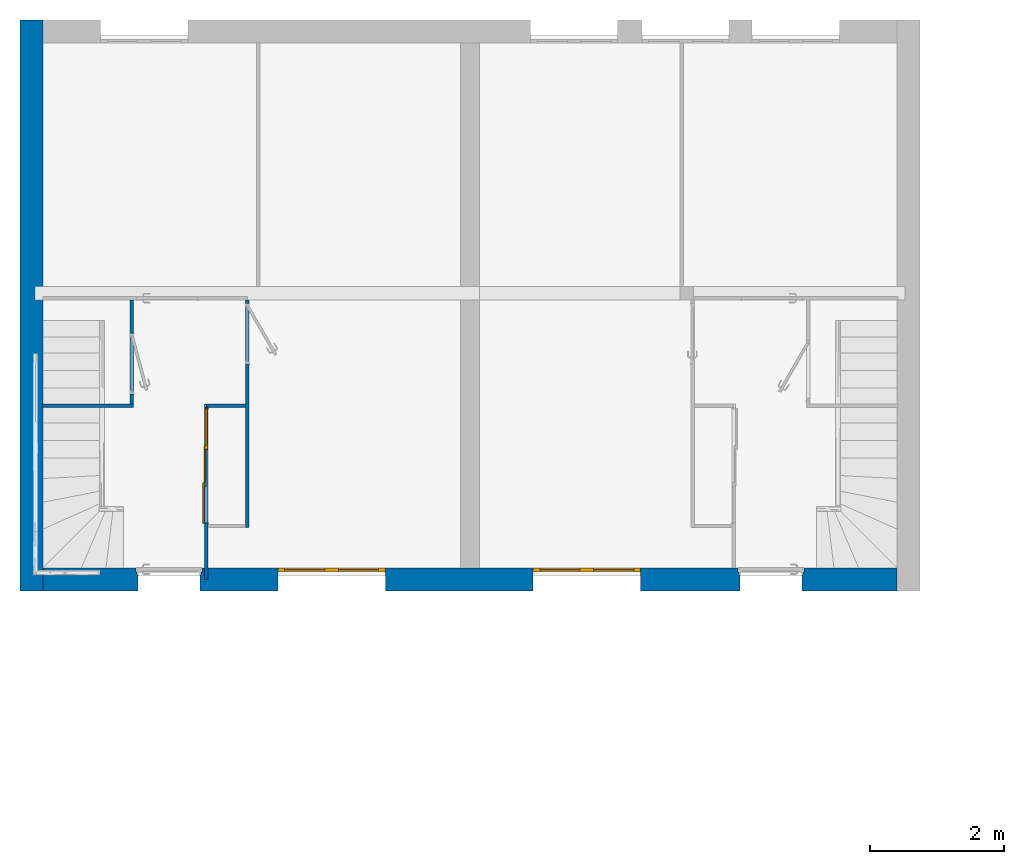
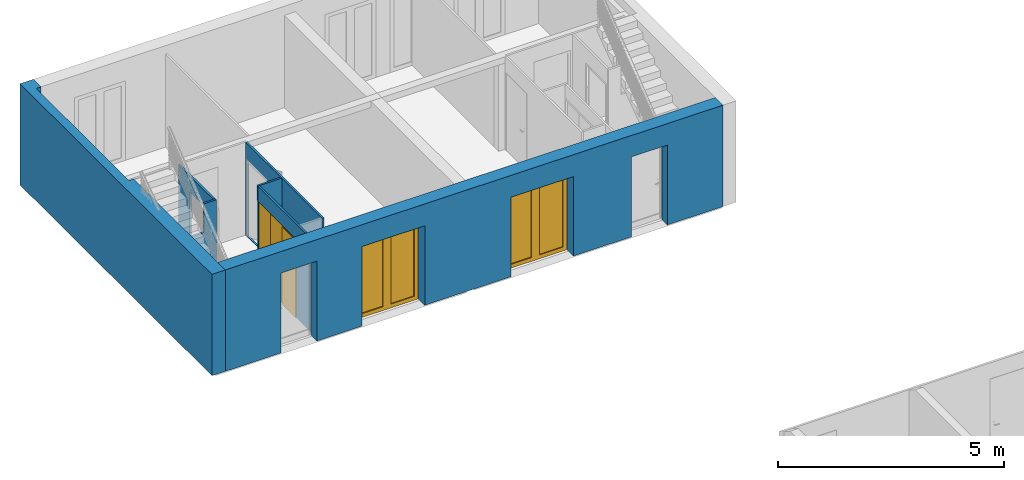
# One storey, part 2 of 12: 7 walls, 3 doors, 11 openings.
"""IFC2X3 building model written with IfcOpenShell, lengths in metres."""

from ifc_helpers import new_model, entity, si_unit, converted_unit, derived_unit, direction, frame, frame_2d, origin, origin_2d_with_axis, place, context, subcontext, project, spatial, polyline, circle_curve, parameter, trimmed, segment, composite_curve, rectangle, outline, extrude, faceted_brep, source, transform, mapped, material, material_list, layer, layer_set, layer_usage, type_object, type_shapes, element, fill, save


model = new_model("IFC2X3")

# Units and contexts
model_context = context("Model", 3, precision=1e-05, world=origin(), true_north=direction((6.12303176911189e-17, 1.0)))
context_of_model = context(None, 3, precision=1e-05, world=origin(), true_north=direction((6.12303176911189e-17, 1.0)))
body_context = subcontext(model_context, "Body", "Model", "MODEL_VIEW")
ifc_project = project(units=[si_unit("LENGTHUNIT", "METRE"), si_unit("AREAUNIT", "SQUARE_METRE"), si_unit("VOLUMEUNIT", "CUBIC_METRE"), converted_unit("PLANEANGLEUNIT", "DEGREE", entity("IfcRatioMeasure", 0.0174532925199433), si_unit("PLANEANGLEUNIT", "RADIAN"), dimensions=[0, 0, 0, 0, 0, 0, 0]), si_unit("MASSUNIT", "GRAM", prefix="KILO"), si_unit("TIMEUNIT", "SECOND"), si_unit("FREQUENCYUNIT", "HERTZ"), si_unit("THERMODYNAMICTEMPERATUREUNIT", "DEGREE_CELSIUS"), derived_unit("THERMALTRANSMITTANCEUNIT", [(si_unit("MASSUNIT", "GRAM", prefix="KILO"), 1), (si_unit("THERMODYNAMICTEMPERATUREUNIT", "KELVIN"), -1), (si_unit("TIMEUNIT", "SECOND"), -3)]), derived_unit("VOLUMETRICFLOWRATEUNIT", [(si_unit("LENGTHUNIT", "METRE"), 3), (si_unit("TIMEUNIT", "SECOND"), -1)]), si_unit("ELECTRICCURRENTUNIT", "AMPERE"), si_unit("ELECTRICVOLTAGEUNIT", "VOLT"), si_unit("POWERUNIT", "WATT"), si_unit("FORCEUNIT", "NEWTON", prefix="KILO"), si_unit("ILLUMINANCEUNIT", "LUX"), si_unit("LUMINOUSFLUXUNIT", "LUMEN"), si_unit("LUMINOUSINTENSITYUNIT", "CANDELA"), derived_unit("USERDEFINED", [(si_unit("MASSUNIT", "GRAM", prefix="KILO"), -1), (si_unit("LENGTHUNIT", "METRE"), -2), (si_unit("TIMEUNIT", "SECOND"), 3), (si_unit("LUMINOUSFLUXUNIT", "LUMEN"), 1)]), derived_unit("LINEARVELOCITYUNIT", [(si_unit("LENGTHUNIT", "METRE"), 1), (si_unit("TIMEUNIT", "SECOND"), -1)]), si_unit("PRESSUREUNIT", "PASCAL"), derived_unit("USERDEFINED", [(si_unit("LENGTHUNIT", "METRE"), -2), (si_unit("MASSUNIT", "GRAM", prefix="KILO"), 1), (si_unit("TIMEUNIT", "SECOND"), -2)])], contexts=[model_context, context_of_model])

# Site, building, storey
site_placement = place(None, origin())
site = spatial("IfcSite", under=ifc_project, at=site_placement, Name="Surface", CompositionType="ELEMENT")
building_placement = place(site_placement, origin())
building = spatial("IfcBuilding", under=site, at=building_placement, CompositionType="ELEMENT")
storey_placement = place(building_placement, origin())
storey = spatial("IfcBuildingStorey", under=building, at=storey_placement, Name="Rez de chaussée", CompositionType="ELEMENT", Elevation=0.0)

# Wall, openings
ifc_material_1 = material(Name="Maçonnerie - Isolant(1)")
ifc_layer_1 = layer(ifc_material_1, 0.05)
ifc_layer_set_1 = layer_set([ifc_layer_1], Name="Mur de base:Int. plâtre 50 mm")
ifc_layer_usage_1 = layer_usage(ifc_layer_set_1, "AXIS2", "NEGATIVE", 0.025)
wall_type_1 = type_object("IfcWallType", Name="Mur de base:Int. plâtre 50 mm", PredefinedType="STANDARD", material=ifc_layer_set_1)
wall_1_placement = place(storey_placement, frame((-9.94608881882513, -0.0607442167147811, -0.00999999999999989), z_axis=(0.0, 0.0, 1.0), x_axis=(-1.0, 0.0, 0.0)))
wall_1 = element("IfcWallStandardCase", 1, at=wall_1_placement, inside=storey, type_object=wall_type_1, material=ifc_layer_usage_1, Name="Mur de base:Int. plâtre 50 mm", ObjectType="Mur de base:Int. plâtre 50 mm", context=body_context, shape_type="SweptSolid", body=[
    extrude(rectangle(XDim=1.365, YDim=0.05, at=frame_2d((0.682500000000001, -3.46944695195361e-18), x_axis=(-1.0, 0.0))), origin(), (0.0, 0.0, 1.0), 2.52),
])
opening_1_placement = place(wall_1_placement, origin())
element("IfcOpeningElement", 2, at=opening_1_placement, cuts=wall_1, Name="Mur de base:Int. plâtre 50 mm", ObjectType="Opening", context=body_context, shape_type="SweptSolid", body=[
    extrude(rectangle(XDim=3.12955139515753, YDim=6.25910279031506, at=origin_2d_with_axis()), frame((2.57361778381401, -3.12955139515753, 2.9270066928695), z_axis=(0.0, 1.0, 0.0), x_axis=(-0.540430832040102, 0.0, -0.841388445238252)), (0.0, 0.0, 1.0), 6.25910279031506),
])
opening_2_placement = place(wall_1_placement, origin())
element("IfcOpeningElement", 3, at=opening_2_placement, cuts=wall_1, Name="Mur de base:Int. plâtre 50 mm", ObjectType="Opening", context=body_context, shape_type="SweptSolid", body=[
    extrude(outline(polyline([(-0.616296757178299, -0.216891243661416), (0.814660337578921, -0.216891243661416), (-0.198363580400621, 0.433782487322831), (-0.616296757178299, -0.216891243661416)])), frame((0.717339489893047, -0.025, 2.00177777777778), z_axis=(0.0, 1.0, 0.0), x_axis=(0.841388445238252, 0.0, -0.540430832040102)), (0.0, 0.0, 1.0), 0.05),
])

# Wall, opening
ifc_layer_usage_2 = layer_usage(ifc_layer_set_1, "AXIS2", "NEGATIVE", 0.025)
wall_2_placement = place(storey_placement, frame((-8.27608881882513, -0.0607442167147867, -0.00999999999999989), z_axis=(0.0, 0.0, 1.0), x_axis=(-1.0, 0.0, 0.0)))
wall_2 = element("IfcWallStandardCase", 4, at=wall_2_placement, inside=storey, type_object=wall_type_1, material=ifc_layer_usage_2, Name="Mur de base:Int. plâtre 50 mm", ObjectType="Mur de base:Int. plâtre 50 mm", context=body_context, shape_type="SweptSolid", body=[
    extrude(rectangle(XDim=0.610000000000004, YDim=0.05, at=frame_2d((0.305000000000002, 5.20417042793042e-18), x_axis=(-1.0, 0.0))), origin(), (0.0, 0.0, 1.0), 2.52),
])
opening_3_placement = place(wall_2_placement, origin())
element("IfcOpeningElement", 5, at=opening_3_placement, cuts=wall_2, Name="Mur de base:Int. plâtre 50 mm", ObjectType="Opening", context=body_context, shape_type="SweptSolid", body=[
    extrude(rectangle(XDim=2.09999999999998, YDim=0.0250000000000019, at=frame_2d((0.0, 5.41233724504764e-16), x_axis=(1.0, 0.0))), frame((0.597500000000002, -0.025, 1.05999999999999), z_axis=(0.0, 1.0, 0.0), x_axis=(0.0, 0.0, -1.0)), (0.0, 0.0, 1.0), 0.05),
])

ifc_layer_usage_3 = layer_usage(ifc_layer_set_1, "AXIS2", "NEGATIVE", 0.025)
wall_3_placement = place(storey_placement, frame((-9.97108881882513, 1.51425578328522, -0.00999999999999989), z_axis=(0.0, 0.0, 1.0), x_axis=(0.0, -1.0, 0.0)))
wall_3 = element("IfcWallStandardCase", 6, at=wall_3_placement, inside=storey, type_object=wall_type_1, material=ifc_layer_usage_3, Name="Mur de base:Int. plâtre 50 mm", ObjectType="Mur de base:Int. plâtre 50 mm", context=body_context, shape_type="SweptSolid", body=[
    extrude(rectangle(XDim=1.55, YDim=0.0500000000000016, at=frame_2d((0.775000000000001, 0.0), x_axis=(-1.0, 0.0))), origin(), (0.0, 0.0, 1.0), 2.52),
])
opening_4_placement = place(wall_3_placement, frame((0.500000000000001, -0.025, 0.00999999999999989)))
element("IfcOpeningElement", 7, at=opening_4_placement, cuts=wall_3, Name="Int. Simple:PP (0.83m x 2.04m):1", ObjectType="Opening", context=body_context, shape_type="SweptSolid", body=[
    extrude(rectangle(XDim=2.075, YDim=0.9, at=frame_2d((1.0375, 0.45), x_axis=(1.0, 0.0))), frame((0.0, 0.0, 0.0), z_axis=(0.0, 1.0, 0.0), x_axis=(0.0, 0.0, 1.0)), (0.0, 0.0, 1.0), 0.05),
])

ifc_layer_usage_4 = layer_usage(ifc_layer_set_1, "AXIS2", "NEGATIVE", 0.025)
wall_4_placement = place(storey_placement, frame((-8.25108881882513, 1.51425578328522, -0.00999999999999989), z_axis=(0.0, 0.0, 1.0), x_axis=(0.0, -1.0, 0.0)))
wall_4 = element("IfcWallStandardCase", 8, at=wall_4_placement, inside=storey, type_object=wall_type_1, material=ifc_layer_usage_4, Name="Mur de base:Int. plâtre 50 mm", ObjectType="Mur de base:Int. plâtre 50 mm", context=body_context, shape_type="SweptSolid", body=[
    extrude(rectangle(XDim=3.39000000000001, YDim=0.0499999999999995, at=frame_2d((1.69500000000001, 0.0), x_axis=(-1.0, 0.0))), origin(), (0.0, 0.0, 1.0), 2.52),
])
opening_5_placement = place(wall_4_placement, frame((0.05, -0.025, 0.00999999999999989)))
element("IfcOpeningElement", 9, at=opening_5_placement, cuts=wall_4, Name="Int. Simple:PP (0.83m x 2.04m):1", ObjectType="Opening", context=body_context, shape_type="SweptSolid", body=[
    extrude(rectangle(XDim=2.075, YDim=0.9, at=frame_2d((1.0375, 0.45), x_axis=(1.0, 0.0))), frame((0.0, 0.0, 0.0), z_axis=(0.0, 1.0, 0.0), x_axis=(0.0, 0.0, 1.0)), (0.0, 0.0, 1.0), 0.05),
])

# Wall, opening, door
ifc_layer_usage_5 = layer_usage(ifc_layer_set_1, "AXIS2", "NEGATIVE", 0.025)
wall_5_placement = place(storey_placement, frame((-8.86108881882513, -0.0857442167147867, -0.00999999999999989), z_axis=(0.0, 0.0, 1.0), x_axis=(0.0, -1.0, 0.0)))
wall_5 = element("IfcWallStandardCase", 10, at=wall_5_placement, inside=storey, type_object=wall_type_1, material=ifc_layer_usage_5, Name="Mur de base:Int. plâtre 50 mm", ObjectType="Mur de base:Int. plâtre 50 mm", context=body_context, shape_type="SweptSolid", body=[
    extrude(rectangle(XDim=2.56000000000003, YDim=0.0499999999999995, at=frame_2d((1.28000000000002, 0.0), x_axis=(-1.0, 0.0))), origin(), (0.0, 0.0, 1.0), 2.52),
])
opening_6_placement = place(wall_5_placement, frame((0.0200000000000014, -0.025, 0.00999999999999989)))
opening_6 = element("IfcOpeningElement", 11, at=opening_6_placement, cuts=wall_5, Name="Placard coulissante - 3 panneaux:Placard coulissante - 3 panneaux:1", ObjectType="Opening", context=body_context, shape_type="SweptSolid", body=[
    extrude(rectangle(XDim=2.09999999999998, YDim=1.7, at=frame_2d((1.04999999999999, 0.85), x_axis=(1.0, 0.0))), frame((0.0, 0.0, 0.0), z_axis=(0.0, 1.0, 0.0), x_axis=(0.0, 0.0, 1.0)), (0.0, 0.0, 1.0), 0.05),
])
ifc_material_2 = material(Name="Placard - Profil")
ifc_material_3 = material(Name="Placard - Encadrement")
ifc_material_4 = material(Name="Placard - Porte")
ifc_material_list_1 = material_list([ifc_material_2, ifc_material_3, ifc_material_4])
ifc_material_list_2 = material_list([ifc_material_2, ifc_material_3, ifc_material_4])
door_style_1 = type_object("IfcDoorStyle", Name="Placard coulissante - 3 panneaux", ConstructionType="NOTDEFINED", OperationType="SLIDING_TO_RIGHT", ParameterTakesPrecedence=False, Sizeable=False, material=ifc_material_list_2)
shared_shape_1 = source(origin(), body_context, "Body", "SweptSolid", [
    extrude(outline(composite_curve([segment(polyline([(-0.0250000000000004, -0.00100000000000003), (0.0249999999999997, -0.00100000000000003)]), True, "CONTINUOUS"), segment(polyline([(0.0249999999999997, -0.00100000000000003), (0.0249999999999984, 0.00100000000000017)]), True, "CONTINUOUS"), segment(trimmed(circle_curve(frame_2d((0.0, -0.212860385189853), x_axis=(-1.0, 0.0)), 0.215316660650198), [parameter(263.332459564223)], [parameter(276.667540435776)], True, "PARAMETER"), True, "CONTINUOUS"), segment(polyline([(-0.0250000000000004, 0.00100000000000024), (-0.0250000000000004, -0.00100000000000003)]), True, "CONTINUOUS")], self_intersect=False)), frame((1.675, 0.00899999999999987, 0.0), z_axis=(0.0, 0.0, 1.0), x_axis=(-1.0, 0.0, 0.0)), (0.0, 0.0, 1.0), 2.1),
    extrude(outline(composite_curve([segment(polyline([(-0.0250000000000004, -0.00100000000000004), (0.0249999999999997, -0.00100000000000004)]), True, "CONTINUOUS"), segment(polyline([(0.0249999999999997, -0.00100000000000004), (0.0249999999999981, 0.00100000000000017)]), True, "CONTINUOUS"), segment(trimmed(circle_curve(frame_2d((0.0, -0.212860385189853), x_axis=(-1.0, 0.0)), 0.215316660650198), [parameter(263.332459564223)], [parameter(276.667540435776)], True, "PARAMETER"), True, "CONTINUOUS"), segment(polyline([(-0.0250000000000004, 0.00100000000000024), (-0.0250000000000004, -0.00100000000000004)]), True, "CONTINUOUS")], self_intersect=False)), frame((1.125, 0.00900000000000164, 0.0), z_axis=(0.0, 0.0, 1.0), x_axis=(-1.0, 0.0, 0.0)), (0.0, 0.0, 1.0), 2.1),
    extrude(outline(composite_curve([segment(polyline([(-0.0250000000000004, -0.00100000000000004), (0.0249999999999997, -0.00100000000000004)]), True, "CONTINUOUS"), segment(polyline([(0.0249999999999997, -0.00100000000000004), (0.0249999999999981, 0.00100000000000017)]), True, "CONTINUOUS"), segment(trimmed(circle_curve(frame_2d((0.0, -0.212860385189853), x_axis=(-1.0, 0.0)), 0.215316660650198), [parameter(263.332459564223)], [parameter(276.667540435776)], True, "PARAMETER"), True, "CONTINUOUS"), segment(polyline([(-0.0250000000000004, 0.00100000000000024), (-0.0250000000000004, -0.00100000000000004)]), True, "CONTINUOUS")], self_intersect=False)), frame((1.125, 0.0340000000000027, 0.0), z_axis=(0.0, 0.0, 1.0), x_axis=(-1.0, 0.0, 0.0)), (0.0, 0.0, 1.0), 2.1),
    extrude(outline(composite_curve([segment(polyline([(-0.0250000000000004, -0.00100000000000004), (0.0249999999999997, -0.00100000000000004)]), True, "CONTINUOUS"), segment(polyline([(0.0249999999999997, -0.00100000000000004), (0.0249999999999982, 0.00100000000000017)]), True, "CONTINUOUS"), segment(trimmed(circle_curve(frame_2d((0.0, -0.212860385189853), x_axis=(-1.0, 0.0)), 0.215316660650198), [parameter(263.332459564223)], [parameter(276.667540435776)], True, "PARAMETER"), True, "CONTINUOUS"), segment(polyline([(-0.0250000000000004, 0.00100000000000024), (-0.0250000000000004, -0.00100000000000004)]), True, "CONTINUOUS")], self_intersect=False)), frame((0.575000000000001, 0.0340000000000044, 0.0), z_axis=(0.0, 0.0, 1.0), x_axis=(-1.0, 0.0, 0.0)), (0.0, 0.0, 1.0), 2.1),
    extrude(outline(composite_curve([segment(polyline([(-0.0250000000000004, -0.00100000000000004), (0.0249999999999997, -0.00100000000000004)]), True, "CONTINUOUS"), segment(polyline([(0.0249999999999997, -0.00100000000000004), (0.0249999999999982, 0.00100000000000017)]), True, "CONTINUOUS"), segment(trimmed(circle_curve(frame_2d((0.0, -0.212860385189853), x_axis=(-1.0, 0.0)), 0.215316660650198), [parameter(263.332459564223)], [parameter(276.667540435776)], True, "PARAMETER"), True, "CONTINUOUS"), segment(polyline([(-0.0250000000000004, 0.00100000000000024), (-0.0250000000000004, -0.00100000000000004)]), True, "CONTINUOUS")], self_intersect=False)), frame((0.575000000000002, 0.0590000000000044, 0.0), z_axis=(0.0, 0.0, 1.0), x_axis=(-1.0, 0.0, 0.0)), (0.0, 0.0, 1.0), 2.1),
    extrude(outline(composite_curve([segment(polyline([(-0.0250000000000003, -0.00100000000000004), (0.0249999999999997, -0.00100000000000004)]), True, "CONTINUOUS"), segment(polyline([(0.0249999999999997, -0.00100000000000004), (0.0249999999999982, 0.00100000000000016)]), True, "CONTINUOUS"), segment(trimmed(circle_curve(frame_2d((0.0, -0.212860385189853), x_axis=(-1.0, 0.0)), 0.215316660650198), [parameter(263.332459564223)], [parameter(276.667540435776)], True, "PARAMETER"), True, "CONTINUOUS"), segment(polyline([(-0.0250000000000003, 0.00100000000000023), (-0.0250000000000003, -0.00100000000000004)]), True, "CONTINUOUS")], self_intersect=False)), frame((0.0249999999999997, 0.0590000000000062, 0.0), z_axis=(0.0, 0.0, 1.0), x_axis=(-1.0, 0.0, 0.0)), (0.0, 0.0, 1.0), 2.1),
    extrude(outline(polyline([(-1.06149999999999, -0.898), (1.08649999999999, -0.898), (1.08649999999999, 0.898), (-1.06149999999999, 0.898), (-1.06149999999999, 0.848), (1.03649999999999, 0.848), (1.03649999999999, -0.848), (-1.06149999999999, -0.848), (-1.06149999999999, -0.898)])), frame((0.85, -0.003, 1.06149999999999), z_axis=(0.0, 1.0, 0.0), x_axis=(0.0, 0.0, 1.0)), (0.0, 0.0, 1.0), 0.003),
    extrude(rectangle(XDim=0.020000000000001, YDim=0.6, at=origin_2d_with_axis()), frame((1.4, 0.0200000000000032, 0.0), z_axis=(0.0, 0.0, 1.0), x_axis=(0.0, 1.0, 0.0)), (0.0, 0.0, 1.0), 2.1),
    extrude(rectangle(XDim=0.600000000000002, YDim=0.02, at=origin_2d_with_axis()), frame((0.300000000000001, 0.0700000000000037, 0.0), z_axis=(0.0, 0.0, 1.0), x_axis=(-1.0, 0.0, 0.0)), (0.0, 0.0, 1.0), 2.1),
    extrude(rectangle(XDim=0.02, YDim=0.599999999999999, at=frame_2d((0.0, -2.77555756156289e-17), x_axis=(1.0, 0.0))), frame((0.85, 0.0450000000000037, 0.0), z_axis=(0.0, 0.0, 1.0), x_axis=(0.0, 1.0, 0.0)), (0.0, 0.0, 1.0), 2.1),
])
type_shapes(door_style_1, [shared_shape_1])
door_1_placement = place(opening_6_placement, frame((1.7, 0.0500000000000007, 0.0), z_axis=(0.0, 0.0, 1.0), x_axis=(-1.0, 0.0, 0.0)))
door_1 = element("IfcDoor", 12, at=door_1_placement, inside=storey, type_object=door_style_1, material=ifc_material_list_1, Name="Placard coulissante - 3 panneaux:Placard coulissante - 3 panneaux", ObjectType="Placard coulissante - 3 panneaux", OverallHeight=2.09999999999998, OverallWidth=1.7, context=body_context, shape_type="MappedRepresentation", body=[
    mapped(shared_shape_1, transform((0.0, 0.0, 0.0), scale=1.0)),
])
fill(opening_6, door_1)

# Wall, opening
ifc_material_5 = material(Name="Maçonnerie - Enduit")
ifc_layer_2 = layer(ifc_material_5, 0.02)
ifc_material_6 = material(Name="Maçonnerie - Parpaing")
ifc_layer_3 = layer(ifc_material_6, 0.2)
ifc_material_7 = material(Name="Maçonnerie - Isolant")
ifc_layer_4 = layer(ifc_material_7, 0.11)
ifc_material_8 = material(Name="Maçonnerie - Isolant 1")
ifc_layer_5 = layer(ifc_material_8, 0.01)
ifc_layer_set_2 = layer_set([ifc_layer_2, ifc_layer_3, ifc_layer_4, ifc_layer_5], Name="Mur de base:Mur de base Ext. Parpaing 20 + Isolant 12")
ifc_layer_usage_6 = layer_usage(ifc_layer_set_2, "AXIS2", "NEGATIVE", 0.17)
wall_type_2 = type_object("IfcWallType", Name="Mur de base:Mur de base Ext. Parpaing 20 + Isolant 12", PredefinedType="STANDARD", material=ifc_layer_set_2)
wall_6_placement = place(storey_placement, frame((-11.4660888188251, -2.81574421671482, 0.0), z_axis=(0.0, 0.0, 1.0), x_axis=(0.0, 1.0, 0.0)))
wall_6 = element("IfcWallStandardCase", 13, at=wall_6_placement, inside=storey, type_object=wall_type_2, material=ifc_layer_usage_6, Name="Mur de base:Mur de base Ext. Parpaing 20 + Isolant 12", ObjectType="Mur de base:Mur de base Ext. Parpaing 20 + Isolant 12", context=body_context, shape_type="SweptSolid", body=[
    extrude(rectangle(XDim=8.50000000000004, YDim=0.340000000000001, at=frame_2d((4.25000000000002, 0.0), x_axis=(-1.0, 0.0))), origin(), (0.0, 0.0, 1.0), 2.74),
])
opening_7_placement = place(wall_6_placement, frame((0.340000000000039, 0.170000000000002, 2.498)))
element("IfcOpeningElement", 14, at=opening_7_placement, cuts=wall_6, Name="Mur de base:Mur de base Ext. Parpaing 20 + Isolant 12", ObjectType="Recess", context=body_context, shape_type="Brep", body=[
    faceted_brep([(7.82, 0.0, 8.83990557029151), (0.0, 0.0, 8.83990557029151), (0.0, -0.340000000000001, 8.83990557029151), (3.72171265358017, -0.340000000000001, 8.83990557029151), (3.72171265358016, -0.22, 8.83990557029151), (7.82, -0.22, 8.83990557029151), (7.82, -0.22, 0.242000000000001), (3.72171265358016, -0.22, 0.242000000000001), (3.72171265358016, -0.340000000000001, 0.242000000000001), (0.0, -0.340000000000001, 0.242000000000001), (0.0, 0.0, 0.242000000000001), (7.82, 0.0, 0.242000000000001), (3.72171265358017, -0.340000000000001, 0.0), (3.72171265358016, -0.22, 0.0), (3.72171265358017, -0.22, 8.59790557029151), (7.82, -0.22, 8.59790557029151), (7.82, -0.340000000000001, 8.59790557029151), (7.82, -0.340000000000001, 0.0), (7.82, -0.22, 0.0), (3.72171265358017, -0.340000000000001, 8.59790557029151)], [[[0, 1, 2, 3, 4, 5]], [[6, 7, 8, 9, 10, 11]], [[11, 10, 1, 0]], [[12, 8, 7, 13]], [[4, 14, 15, 5]], [[5, 15, 16, 17, 18, 6, 11, 0]], [[16, 15, 14, 19]], [[17, 12, 13, 18]], [[13, 7, 6, 18]], [[19, 3, 2, 9, 8, 12, 17, 16]], [[1, 10, 9, 2]], [[3, 19, 14, 4]]]),
])

# Wall, openings, doors
ifc_layer_usage_7 = layer_usage(ifc_layer_set_2, "AXIS2", "NEGATIVE", 0.17)
wall_7_placement = place(storey_placement, frame((1.42391118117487, -2.64574421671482, 0.0), z_axis=(0.0, 0.0, 1.0), x_axis=(-1.0, 0.0, 0.0)))
wall_7 = element("IfcWallStandardCase", 15, at=wall_7_placement, inside=storey, type_object=wall_type_2, material=ifc_layer_usage_7, Name="Mur de base:Mur de base Ext. Parpaing 20 + Isolant 12", ObjectType="Mur de base:Mur de base Ext. Parpaing 20 + Isolant 12", context=body_context, shape_type="SweptSolid", body=[
    extrude(rectangle(XDim=12.72, YDim=0.34, at=frame_2d((6.35999999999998, 0.0), x_axis=(-1.0, 0.0))), origin(), (0.0, 0.0, 1.0), 2.74),
])
opening_8_placement = place(wall_7_placement, frame((11.33, 0.470000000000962, 0.0), z_axis=(0.0, 0.0, 1.0), x_axis=(-1.0, 0.0, 0.0)))
element("IfcOpeningElement", 16, at=opening_8_placement, cuts=wall_7, Name="Mur de base:Mur de base Ext. Parpaing 20 + Isolant 12", ObjectType="Opening", context=body_context, shape_type="Brep", body=[
    faceted_brep([(0.950000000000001, 0.940000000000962, 2.15999999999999), (0.0300000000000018, 0.940000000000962, 2.15999999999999), (0.0300000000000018, 0.640000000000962, 2.15999999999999), (0.950000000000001, 0.640000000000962, 2.15999999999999), (0.950000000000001, 0.0, 0.0), (0.0300000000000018, 0.0, 0.0), (0.0300000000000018, 0.54000000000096, 0.0), (0.0150000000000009, 0.540000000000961, 0.0), (0.0150000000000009, 0.58300000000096, 0.0), (0.0, 0.58300000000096, 0.0), (0.0, 0.640000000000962, 0.0), (0.0300000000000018, 0.640000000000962, 0.0), (0.0300000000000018, 0.940000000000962, 0.0), (0.950000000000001, 0.940000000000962, 0.0), (0.950000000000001, 0.640000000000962, 0.0), (0.979999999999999, 0.640000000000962, 0.0), (0.979999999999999, 0.58300000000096, 0.0), (0.964999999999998, 0.58300000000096, 0.0), (0.964999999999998, 0.540000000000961, 0.0), (0.949999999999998, 0.540000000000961, 0.0), (0.950000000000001, 0.0, 2.15999999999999), (0.0300000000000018, 0.0, 2.15999999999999), (0.0300000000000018, 0.540000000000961, 2.15999999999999), (0.979999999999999, 0.58300000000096, 2.19), (0.0, 0.58300000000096, 2.19), (0.0150000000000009, 0.58300000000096, 2.17499999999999), (0.964999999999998, 0.58300000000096, 2.17499999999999), (0.0, 0.640000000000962, 2.19), (0.979999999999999, 0.640000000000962, 2.19), (0.0150000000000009, 0.54000000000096, 2.17499999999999), (0.950000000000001, 0.540000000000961, 2.15999999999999), (0.964999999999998, 0.54000000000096, 2.17499999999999)], [[[0, 1, 2, 3]], [[4, 5, 6, 7, 8, 9, 10, 11, 12, 13, 14, 15, 16, 17, 18, 19]], [[13, 0, 3, 14]], [[20, 21, 5, 4]], [[5, 21, 22, 6]], [[1, 0, 13, 12]], [[16, 23, 24, 9, 8, 25, 26, 17]], [[11, 10, 27, 28, 15, 14, 3, 2]], [[10, 9, 24, 27]], [[24, 23, 28, 27]], [[23, 16, 15, 28]], [[8, 7, 29, 25]], [[7, 6, 22, 30, 19, 18, 31, 29]], [[25, 29, 31, 26]], [[31, 18, 17, 26]], [[1, 12, 11, 2]], [[20, 4, 19, 30]], [[21, 20, 30, 22]]]),
])
opening_9_placement = place(wall_7_placement, frame((9.21999999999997, 0.169999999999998, 0.0)))
opening_9 = element("IfcOpeningElement", 17, at=opening_9_placement, cuts=wall_7, Name="Double-Glass 1_no trim:PF 1.60 x 2.15:1", ObjectType="Opening", context=body_context, shape_type="SweptSolid", body=[
    extrude(rectangle(XDim=1.6, YDim=2.15, at=frame_2d((1.075, 0.799999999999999), x_axis=(0.0, 1.0))), frame((0.0, 0.0, 0.0), z_axis=(0.0, -1.0, 0.0), x_axis=(0.0, 0.0, 1.0)), (0.0, 0.0, 1.0), 0.34),
])
opening_10_placement = place(wall_7_placement, frame((5.41999999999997, 0.169999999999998, 0.0)))
opening_10 = element("IfcOpeningElement", 18, at=opening_10_placement, cuts=wall_7, Name="Double-Glass 1_no trim:PF 1.60 x 2.15:1", ObjectType="Opening", context=body_context, shape_type="SweptSolid", body=[
    extrude(rectangle(XDim=1.6, YDim=2.15, at=frame_2d((1.075, 0.8), x_axis=(0.0, 1.0))), frame((0.0, 0.0, 0.0), z_axis=(0.0, -1.0, 0.0), x_axis=(0.0, 0.0, 1.0)), (0.0, 0.0, 1.0), 0.34),
])
opening_11_placement = place(wall_7_placement, frame((2.37000000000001, 0.470000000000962, 0.0), z_axis=(0.0, 0.0, 1.0), x_axis=(-1.0, 0.0, 0.0)))
element("IfcOpeningElement", 19, at=opening_11_placement, cuts=wall_7, Name="Mur de base:Mur de base Ext. Parpaing 20 + Isolant 12", ObjectType="Opening", context=body_context, shape_type="Brep", body=[
    faceted_brep([(0.0299999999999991, 0.940000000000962, 2.15999999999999), (0.0299999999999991, 0.640000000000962, 2.15999999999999), (0.949999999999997, 0.640000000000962, 2.15999999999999), (0.949999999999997, 0.940000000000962, 2.15999999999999), (0.0299999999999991, 0.0, 0.0), (0.0299999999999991, 0.540000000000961, 0.0), (0.0150000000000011, 0.540000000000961, 0.0), (0.0150000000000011, 0.58300000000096, 0.0), (0.0, 0.58300000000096, 0.0), (0.0, 0.640000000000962, 0.0), (0.0300000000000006, 0.640000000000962, 0.0), (0.0299999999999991, 0.940000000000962, 0.0), (0.949999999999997, 0.940000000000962, 0.0), (0.949999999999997, 0.640000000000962, 0.0), (0.979999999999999, 0.640000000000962, 0.0), (0.979999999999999, 0.58300000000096, 0.0), (0.964999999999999, 0.58300000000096, 0.0), (0.964999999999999, 0.540000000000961, 0.0), (0.949999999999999, 0.540000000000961, 0.0), (0.949999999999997, 0.0, 0.0), (0.0299999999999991, 0.0, 2.15999999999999), (0.0299999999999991, 0.540000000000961, 2.15999999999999), (0.949999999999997, 0.0, 2.15999999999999), (0.0150000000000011, 0.58300000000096, 2.17499999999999), (0.964999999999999, 0.58300000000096, 2.17499999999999), (0.979999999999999, 0.58300000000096, 2.19), (0.0, 0.58300000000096, 2.19), (0.0, 0.640000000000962, 2.19), (0.98, 0.640000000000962, 2.19), (0.964999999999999, 0.54000000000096, 2.17499999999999), (0.0150000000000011, 0.54000000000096, 2.17499999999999), (0.949999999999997, 0.540000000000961, 2.15999999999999)], [[[0, 1, 2, 3]], [[4, 5, 6, 7, 8, 9, 10, 11, 12, 13, 14, 15, 16, 17, 18, 19]], [[20, 21, 5, 4]], [[20, 4, 19, 22]], [[3, 2, 13, 12]], [[3, 12, 11, 0]], [[8, 7, 23, 24, 16, 15, 25, 26]], [[13, 2, 1, 10, 9, 27, 28, 14]], [[14, 28, 25, 15]], [[25, 28, 27, 26]], [[26, 27, 9, 8]], [[16, 24, 29, 17]], [[17, 29, 30, 6, 5, 21, 31, 18]], [[24, 23, 30, 29]], [[30, 23, 7, 6]], [[19, 18, 31, 22]], [[11, 10, 1, 0]], [[22, 31, 21, 20]]]),
])
ifc_material_9 = material(Name="Glass")
ifc_material_10 = material(Name="PVC - Blanc")
ifc_material_list_3 = material_list([ifc_material_9, ifc_material_10])
ifc_material_list_4 = material_list([ifc_material_9, ifc_material_10])
door_style_2 = type_object("IfcDoorStyle", Name="PF 1.60 x 2.15", ConstructionType="NOTDEFINED", OperationType="DOUBLE_DOOR_SINGLE_SWING", ParameterTakesPrecedence=False, Sizeable=False, material=ifc_material_list_4)
shared_shape_2 = source(origin(), body_context, "Body", "SweptSolid", [
    extrude(rectangle(XDim=0.00714374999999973, YDim=0.5968, at=frame_2d((0.0, -2.77555756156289e-17), x_axis=(1.0, 0.0))), frame((1.2, 0.318171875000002, 0.1016), z_axis=(0.0, 0.0, 1.0), x_axis=(0.0, 1.0, 0.0)), (0.0, 0.0, 1.0), 1.9468),
    extrude(rectangle(XDim=0.00714374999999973, YDim=0.5968, at=origin_2d_with_axis()), frame((0.400000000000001, 0.318171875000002, 0.1016), z_axis=(0.0, 0.0, 1.0), x_axis=(0.0, 1.0, 0.0)), (0.0, 0.0, 1.0), 1.9468),
    extrude(outline(polyline([(-1.075, -0.800000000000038), (1.075, -0.800000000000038), (1.075, 0.800000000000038), (-1.075, 0.800000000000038), (-1.075, -0.800000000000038)]), holes=[polyline([(-0.973399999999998, 0.101600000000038), (-0.973399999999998, 0.698400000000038), (0.973399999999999, 0.698400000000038), (0.973399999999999, 0.101600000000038), (-0.973399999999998, 0.101600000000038)]), polyline([(-0.973399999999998, -0.698399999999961), (-0.973399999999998, -0.101599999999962), (0.973399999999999, -0.101599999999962), (0.973399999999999, -0.698399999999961), (-0.973399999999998, -0.698399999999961)])]), frame((0.800000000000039, 0.289200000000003, 1.075), z_axis=(0.0, 1.0, 0.0), x_axis=(0.0, 0.0, -1.0)), (0.0, 0.0, 1.0), 0.0508),
])
type_shapes(door_style_2, [shared_shape_2])
door_2_placement = place(opening_9_placement, frame((0.0, 0.0, 0.0), z_axis=(0.0, 0.0, 1.0), x_axis=(-1.0, 0.0, 0.0)))
door_2 = element("IfcDoor", 20, at=door_2_placement, inside=storey, type_object=door_style_2, material=ifc_material_list_3, Name="Double-Glass 1_no trim:PF 1.60 x 2.15", ObjectType="PF 1.60 x 2.15", OverallHeight=2.15, OverallWidth=1.6, context=body_context, shape_type="MappedRepresentation", body=[
    mapped(shared_shape_2, transform((0.0, 0.0, 0.0), scale=1.0)),
])
fill(opening_9, door_2)
ifc_material_list_5 = material_list([ifc_material_9, ifc_material_10])
door_3_placement = place(opening_10_placement, frame((0.0, 0.0, 0.0), z_axis=(0.0, 0.0, 1.0), x_axis=(-1.0, 0.0, 0.0)))
door_3 = element("IfcDoor", 21, at=door_3_placement, inside=storey, type_object=door_style_2, material=ifc_material_list_5, Name="Double-Glass 1_no trim:PF 1.60 x 2.15", ObjectType="PF 1.60 x 2.15", OverallHeight=2.15, OverallWidth=1.6, context=body_context, shape_type="MappedRepresentation", body=[
    mapped(shared_shape_2, transform((0.0, 0.0, 0.0), scale=1.0)),
])
fill(opening_10, door_3)

save(model, "model.ifc")
